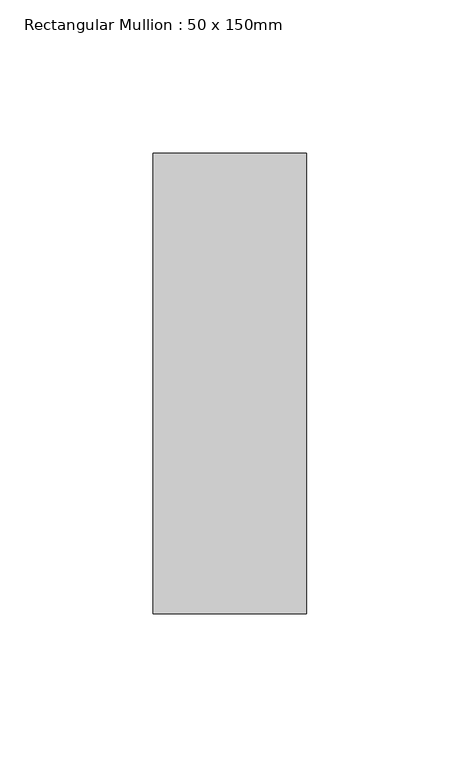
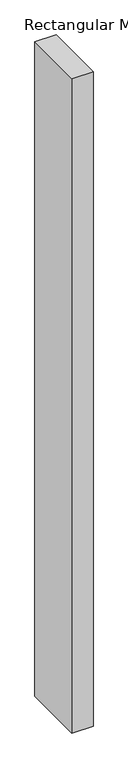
"""IFC4 building model written with IfcOpenShell, lengths in millimetres: member geometry, Rectangular Mullion : 50 x 150mm."""

from ifc_helpers import new_model, si_unit, frame, origin, place, context, project, spatial, polyline, outline, extrude, source, transform, mapped, element, save


def rectangular_mullion_50_x_150mm_b8963a12(model_context):
    return source(origin(), model_context, "Body", "SweptSolid", [
        extrude(outline(polyline([(0.0, 75.0), (0.0, -75.0), (-50.0, -75.0), (-50.0, 75.0), (0.0, 75.0)])), frame((0.0, 0.0, -1625.0), z_axis=(0.0, 0.0, 1.0), x_axis=(1.0, 0.0, 0.0)), (0.0, 0.0, 1.0), 1625.0),
    ])


if __name__ == "__main__":
    model = new_model("IFC4")
    model_context = context("Model", 3, world=origin())
    ifc_project = project(units=[si_unit("LENGTHUNIT", "METRE", prefix="MILLI")], contexts=[model_context])
    site = spatial("IfcSite", under=ifc_project)
    building = spatial("IfcBuilding", under=site)
    placement = place(None, origin())
    rectangular_mullion_50_x_150mm_shape = rectangular_mullion_50_x_150mm_b8963a12(model_context)
    element("IfcMember", 1, ObjectType="Rectangular Mullion : 50 x 150mm", at=placement, inside=building, context=model_context, shape_type="MappedRepresentation", body=[
        mapped(rectangular_mullion_50_x_150mm_shape, transform((0.0, 0.0, 0.0), x_axis=(1.0, 0.0, 0.0), y_axis=(0.0, 1.0, 0.0), z_axis=(0.0, 0.0, 1.0))),
    ])
    save(model, "model.ifc")
